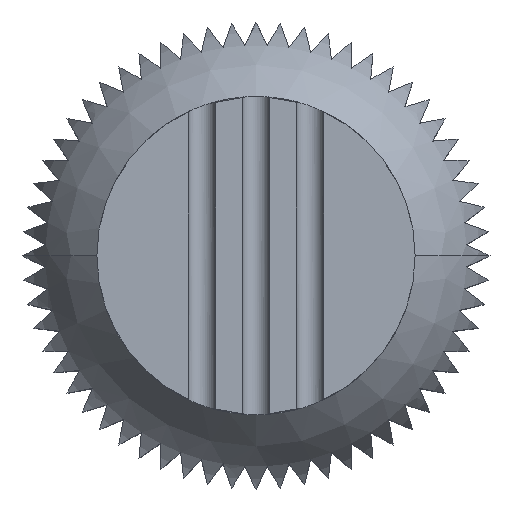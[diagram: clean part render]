
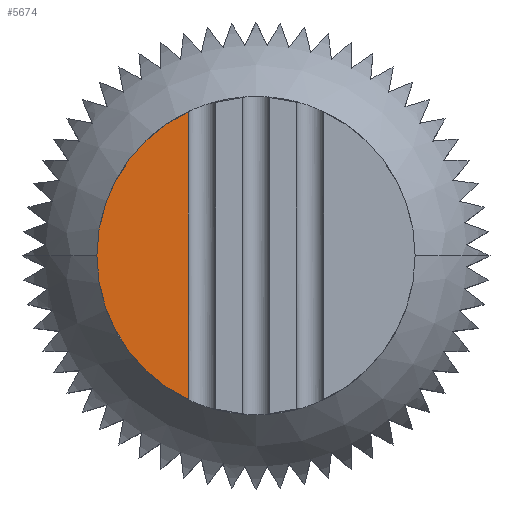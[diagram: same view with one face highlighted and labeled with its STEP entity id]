
A CAD part, top view. The second image highlights one B-rep face of the part: STEP entity #5674.
In plain terms, the highlighted planar face has unit normal (0, 0, 1).
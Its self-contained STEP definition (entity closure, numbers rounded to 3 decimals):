
#2660=CARTESIAN_POINT('',(-3.623,-7.689,116.));
#2747=DIRECTION('',(0.,1.,0.));
#2748=VECTOR('',#2747,15.378);
#2749=CARTESIAN_POINT('',(-3.623,-7.689,116.));
#2750=LINE('',#2749,#2748);
#2754=CARTESIAN_POINT('',(0.,0.,116.));
#2755=DIRECTION('',(0.,0.,1.));
#2756=DIRECTION('',(-1.,0.,0.));
#2757=AXIS2_PLACEMENT_3D('',#2754,#2755,#2756);
#2762=CARTESIAN_POINT('',(0.,0.,116.));
#2763=DIRECTION('',(0.,0.,-1.));
#2764=DIRECTION('',(-1.,0.,0.));
#2765=AXIS2_PLACEMENT_3D('',#2762,#2763,#2764);
#3138=CARTESIAN_POINT('',(-8.5,0.,116.));
#3140=VERTEX_POINT('',#3138);
#3156=VERTEX_POINT('',#2660);
#3167=CARTESIAN_POINT('',(-3.623,7.689,116.));
#3168=VERTEX_POINT('',#3167);
#5663=CARTESIAN_POINT('',(0.,0.,116.));
#5664=DIRECTION('',(0.,0.,1.));
#5665=DIRECTION('',(-1.,0.,0.));
#5666=AXIS2_PLACEMENT_3D('',#5663,#5664,#5665);
#5667=PLANE('',#5666);
#5668=ORIENTED_EDGE('',*,*,#5655,.F.);
#5669=ORIENTED_EDGE('',*,*,#5579,.F.);
#5671=ORIENTED_EDGE('',*,*,#5670,.T.);
#5672=EDGE_LOOP('',(#5668,#5669,#5671));
#5673=FACE_OUTER_BOUND('',#5672,.F.);
#2758=CIRCLE('',#2757,8.5);
#2766=CIRCLE('',#2765,8.5);
#5579=EDGE_CURVE('',#3140,#3156,#2758,.T.);
#5655=EDGE_CURVE('',#3156,#3168,#2750,.T.);
#5670=EDGE_CURVE('',#3140,#3168,#2766,.T.);
#5674=ADVANCED_FACE('',(#5673),#5667,.T.);
